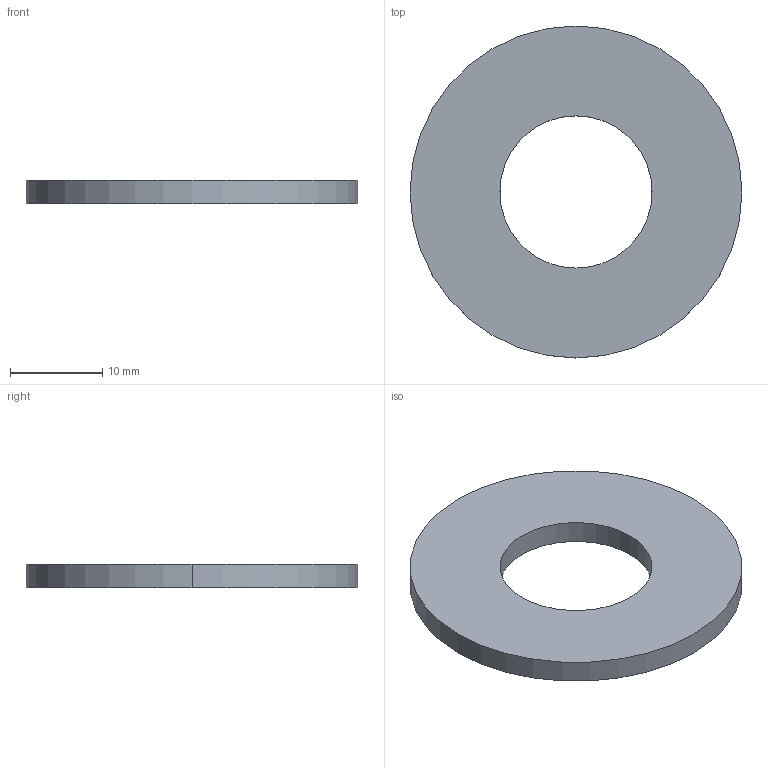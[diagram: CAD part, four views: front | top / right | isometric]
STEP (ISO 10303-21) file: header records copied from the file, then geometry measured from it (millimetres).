
FILE_DESCRIPTION (( 'STEP AP203' ), '1' );
FILE_NAME ('P0333.160-036-A4.step', '2018-12-17T19:09:29', ( '' ), ( '' ), 'SwSTEP 2.0', 'SolidWorks 2017', '' );
FILE_SCHEMA (( 'CONFIG_CONTROL_DESIGN' ));
Length unit declared in the file: millimetre
Products named in the file (1): P0333.160-036-A4
Bounding box: 36 x 36 x 2.5 mm (x, y, z)
Volume: 2010.1 mm3; surface area: 2020.4 mm2
Topology: 1 solids, 1 shells, 6 faces, 12 edges, 8 vertices
Faces by surface type: cylinder 4, plane 2
Entity records: 245 total; most frequent: DIRECTION 34, CARTESIAN_POINT 27, ORIENTED_EDGE 24, AXIS2_PLACEMENT_3D 15, EDGE_CURVE 12, VERTEX_POINT 8, CIRCLE 8, EDGE_LOOP 8
